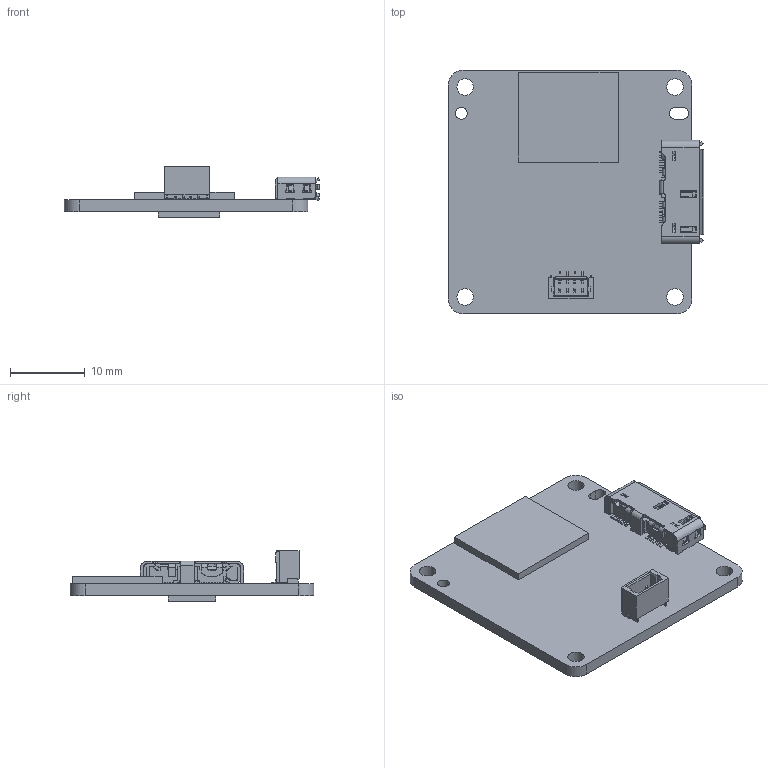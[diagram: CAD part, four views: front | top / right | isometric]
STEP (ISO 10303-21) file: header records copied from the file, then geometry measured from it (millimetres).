
FILE_DESCRIPTION((''),'2;1');
FILE_NAME('CB020-60UMC-B1','2026-01-15T15:15:07',('pengxianzu'),(''),'CREO PARAMETRIC BY PTC INC, 2020044','CREO PARAMETRIC BY PTC INC, 2020044','');
FILE_SCHEMA(('CONFIG_CONTROL_DESIGN'));
Length unit declared in the file: millimetre
Products named in the file (1): CB020-60UMC-B1
Bounding box: 34.07 x 32.5 x 6.78 mm (x, y, z)
Volume: 1997.2 mm3; surface area: 3302.2 mm2
Topology: 1 solids, 2 shells, 1152 faces, 3609 edges, 2357 vertices
Faces by surface type: plane 778, cylinder 345, cone 12, bspline 9, torus 8
Entity records: 40706 total; most frequent: CARTESIAN_POINT 7903, ORIENTED_EDGE 7218, DIRECTION 6536, EDGE_CURVE 3609, VECTOR 2772, LINE 2772, VERTEX_POINT 2357, AXIS2_PLACEMENT_3D 1882
